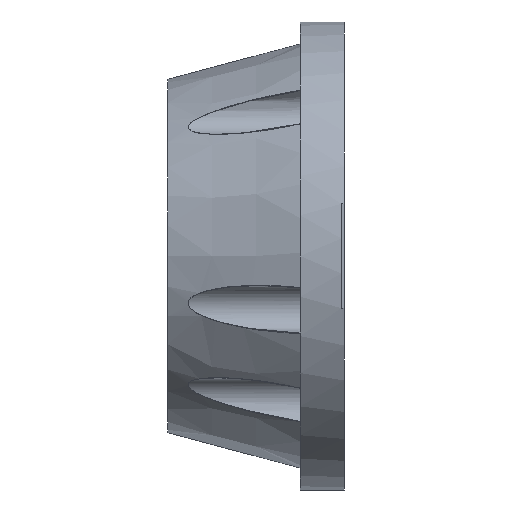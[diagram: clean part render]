
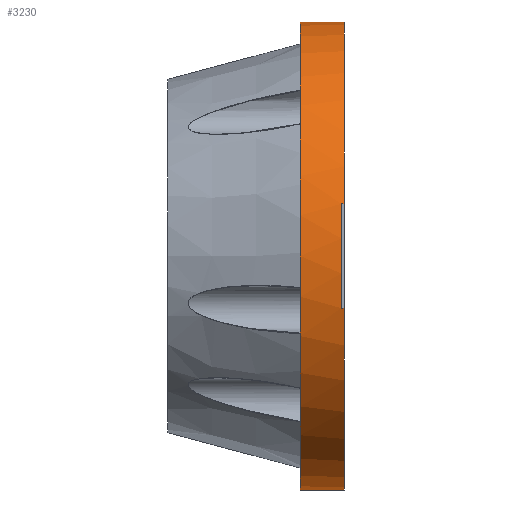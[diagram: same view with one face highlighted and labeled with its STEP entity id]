
A CAD part, left-side view. The second image highlights one B-rep face of the part: STEP entity #3230.
In plain terms, the highlighted cylindrical face has radius 100.965 mm (diameter 201.93 mm), a partial arc.
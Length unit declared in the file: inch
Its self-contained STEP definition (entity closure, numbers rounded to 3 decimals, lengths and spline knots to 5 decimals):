
#37 = ORIENTED_EDGE ( 'NONE', *, *, #555, .F. ) ;
#114 = VERTEX_POINT ( 'NONE', #4028 ) ;
#320 = DIRECTION ( 'NONE',  ( 0., -1., 0. ) ) ;
#353 = CARTESIAN_POINT ( 'NONE',  ( 0., -0.75, 0. ) ) ;
#478 = CIRCLE ( 'NONE', #5010, 3.975 ) ;
#555 = EDGE_CURVE ( 'NONE', #5824, #114, #1000, .T. ) ;
#653 = VECTOR ( 'NONE', #4470, 39.37008 ) ;
#782 = CIRCLE ( 'NONE', #1734, 3.975 ) ;
#798 = DIRECTION ( 'NONE',  ( 0., 0., -1. ) ) ;
#839 = ORIENTED_EDGE ( 'NONE', *, *, #2208, .T. ) ;
#948 = DIRECTION ( 'NONE',  ( 0., -1., 0. ) ) ;
#1000 = LINE ( 'NONE', #4096, #4594 ) ;
#1111 = CARTESIAN_POINT ( 'NONE',  ( -3.875, -1.5, 0.886 ) ) ;
#1316 = CARTESIAN_POINT ( 'NONE',  ( -3.875, -1.5, -0.886 ) ) ;
#1340 = EDGE_CURVE ( 'NONE', #2849, #4603, #5822, .T. ) ;
#1468 = CARTESIAN_POINT ( 'NONE',  ( 0., -1.5, 0. ) ) ;
#1512 = VERTEX_POINT ( 'NONE', #2296 ) ;
#1636 = CARTESIAN_POINT ( 'NONE',  ( -3.875, -1.45, 0.886 ) ) ;
#1697 = ORIENTED_EDGE ( 'NONE', *, *, #2519, .F. ) ;
#1734 = AXIS2_PLACEMENT_3D ( 'NONE', #353, #3553, #798 ) ;
#1792 = EDGE_CURVE ( 'NONE', #114, #4536, #4146, .T. ) ;
#1819 = VERTEX_POINT ( 'NONE', #1316 ) ;
#1927 = DIRECTION ( 'NONE',  ( 0., 0., -1. ) ) ;
#2177 = ORIENTED_EDGE ( 'NONE', *, *, #5834, .F. ) ;
#2180 = DIRECTION ( 'NONE',  ( 0., 0., -1. ) ) ;
#2208 = EDGE_CURVE ( 'NONE', #1512, #2815, #5605, .T. ) ;
#2296 = CARTESIAN_POINT ( 'NONE',  ( 0., -0.75, -3.975 ) ) ;
#2471 = EDGE_CURVE ( 'NONE', #5824, #1512, #782, .T. ) ;
#2519 = EDGE_CURVE ( 'NONE', #4603, #1819, #3077, .T. ) ;
#2602 = AXIS2_PLACEMENT_3D ( 'NONE', #5868, #3569, #2180 ) ;
#2676 = CARTESIAN_POINT ( 'NONE',  ( 0., -1.5, -3.975 ) ) ;
#2815 = VERTEX_POINT ( 'NONE', #3435 ) ;
#2849 = VERTEX_POINT ( 'NONE', #1636 ) ;
#2931 = CARTESIAN_POINT ( 'NONE',  ( -3.875, -1.45, 0.886 ) ) ;
#3041 = CARTESIAN_POINT ( 'NONE',  ( 0., -1.45, 0. ) ) ;
#3077 = LINE ( 'NONE', #3716, #653 ) ;
#3130 = EDGE_CURVE ( 'NONE', #2849, #4536, #3643, .T. ) ;
#3230 = ADVANCED_FACE ( 'NONE', ( #5076 ), #3865, .T. ) ;
#3435 = CARTESIAN_POINT ( 'NONE',  ( 0., -1.5, -3.975 ) ) ;
#3515 = DIRECTION ( 'NONE',  ( 0., 0., -1. ) ) ;
#3553 = DIRECTION ( 'NONE',  ( 0., -1., 0. ) ) ;
#3561 = CARTESIAN_POINT ( 'NONE',  ( -3.875, -1.45, -0.886 ) ) ;
#3569 = DIRECTION ( 'NONE',  ( 0., -1., 0. ) ) ;
#3597 = DIRECTION ( 'NONE',  ( 0., -1., 0. ) ) ;
#3643 = LINE ( 'NONE', #2931, #4868 ) ;
#3673 = ORIENTED_EDGE ( 'NONE', *, *, #3130, .T. ) ;
#3689 = CARTESIAN_POINT ( 'NONE',  ( 0., -1.5, 0. ) ) ;
#3716 = CARTESIAN_POINT ( 'NONE',  ( -3.875, -1.45, -0.886 ) ) ;
#3860 = DIRECTION ( 'NONE',  ( 0., -1., 0. ) ) ;
#3865 = CYLINDRICAL_SURFACE ( 'NONE', #2602, 3.975 ) ;
#3955 = EDGE_LOOP ( 'NONE', ( #37, #4797, #839, #2177, #1697, #4397, #3673, #4007 ) ) ;
#3989 = AXIS2_PLACEMENT_3D ( 'NONE', #3041, #320, #3515 ) ;
#4007 = ORIENTED_EDGE ( 'NONE', *, *, #1792, .F. ) ;
#4028 = CARTESIAN_POINT ( 'NONE',  ( 0., -1.5, 3.975 ) ) ;
#4096 = CARTESIAN_POINT ( 'NONE',  ( 0., -1.5, 3.975 ) ) ;
#4138 = DIRECTION ( 'NONE',  ( 0., 0., -1. ) ) ;
#4146 = CIRCLE ( 'NONE', #5733, 3.975 ) ;
#4182 = CARTESIAN_POINT ( 'NONE',  ( 0., -0.75, 3.975 ) ) ;
#4397 = ORIENTED_EDGE ( 'NONE', *, *, #1340, .F. ) ;
#4470 = DIRECTION ( 'NONE',  ( 0., -1., 0. ) ) ;
#4536 = VERTEX_POINT ( 'NONE', #1111 ) ;
#4594 = VECTOR ( 'NONE', #5025, 39.37008 ) ;
#4603 = VERTEX_POINT ( 'NONE', #3561 ) ;
#4685 = DIRECTION ( 'NONE',  ( 0., -1., 0. ) ) ;
#4797 = ORIENTED_EDGE ( 'NONE', *, *, #2471, .T. ) ;
#4868 = VECTOR ( 'NONE', #3860, 39.37008 ) ;
#5010 = AXIS2_PLACEMENT_3D ( 'NONE', #1468, #4685, #1927 ) ;
#5025 = DIRECTION ( 'NONE',  ( 0., -1., 0. ) ) ;
#5076 = FACE_OUTER_BOUND ( 'NONE', #3955, .T. ) ;
#5605 = LINE ( 'NONE', #2676, #5754 ) ;
#5733 = AXIS2_PLACEMENT_3D ( 'NONE', #3689, #948, #4138 ) ;
#5754 = VECTOR ( 'NONE', #3597, 39.37008 ) ;
#5822 = CIRCLE ( 'NONE', #3989, 3.975 ) ;
#5824 = VERTEX_POINT ( 'NONE', #4182 ) ;
#5834 = EDGE_CURVE ( 'NONE', #1819, #2815, #478, .T. ) ;
#5868 = CARTESIAN_POINT ( 'NONE',  ( 0., -1.5, 0. ) ) ;
